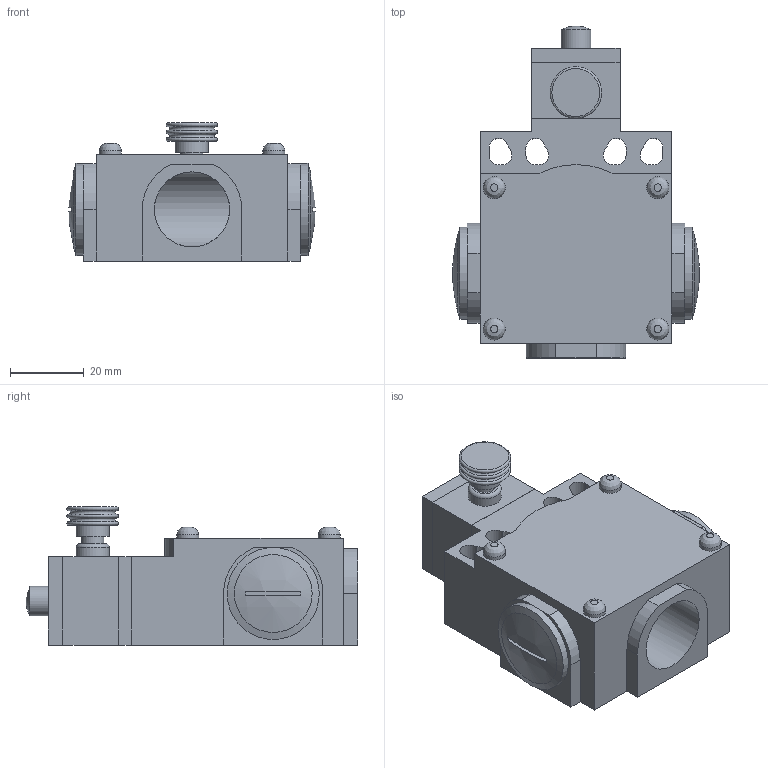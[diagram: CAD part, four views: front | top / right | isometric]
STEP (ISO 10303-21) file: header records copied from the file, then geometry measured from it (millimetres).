
FILE_DESCRIPTION((''),'2;1');
FILE_NAME('D:\Documenti_D\Corrispondenza\Comepi\Catalogo da fare\Modelli Nov 2011\DM e CM\STEP\DM1-R11.iam.step','2011-11-17T12:01:16',(''),(''),'Autodesk Inventor 2010','Autodesk Inventor 2010','');
FILE_SCHEMA(('AUTOMOTIVE_DESIGN { 1 0 10303 214 1 1 1 1 }'));
Length unit declared in the file: millimetre
Products named in the file (8): DM1-R11; DM1; tappo; R11.iam; R; T10_1; T10_2
Assembly tree (8 placements, depth 3):
  DM1-R11
    DM1
      DM1
      tappo  x2
    R11.iam
      R
      T10_1
      T10_2
Bounding box: 66.83 x 90.1 x 37.5 mm (x, y, z)
Volume: 81102.3 mm3; surface area: 26569.5 mm2
Topology: 6 solids, 6 shells, 114 faces, 271 edges, 177 vertices
Faces by surface type: plane 66, cylinder 32, torus 6, bspline 4, cone 3, sphere 3
Full cylindrical faces by diameter (mm): 6 x5, 8 x2, 9 x2, 20.4 x2, 25 x2
Entity records: 3425 total; most frequent: CARTESIAN_POINT 760, DIRECTION 534, ORIENTED_EDGE 448, EDGE_CURVE 224, AXIS2_PLACEMENT_3D 195, VERTEX_POINT 161, EDGE_LOOP 151, VECTOR 144
